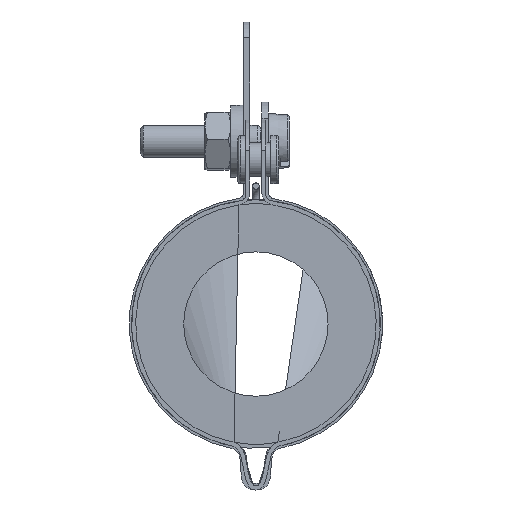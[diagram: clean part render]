
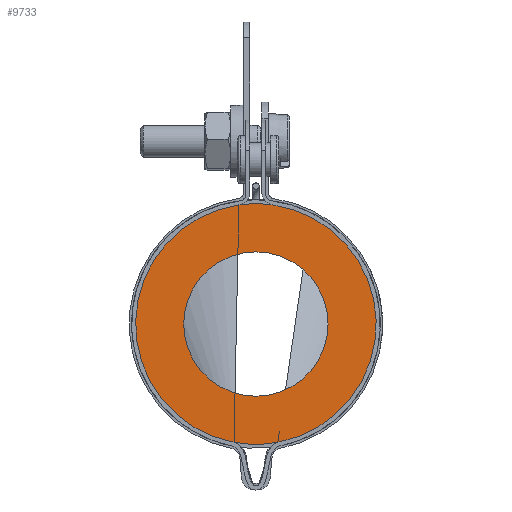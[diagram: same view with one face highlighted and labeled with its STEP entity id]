
A CAD part, front view. The second image highlights one B-rep face of the part: STEP entity #9733.
In plain terms, the highlighted planar face has unit normal (0, -1, 0).
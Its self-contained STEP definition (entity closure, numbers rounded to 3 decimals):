
#69=B_SPLINE_CURVE_WITH_KNOTS($,3,(#16328,#16329,#16330,#16331),
 .UNSPECIFIED.,.F.,.F.,(4,4),(0.,0.018),.UNSPECIFIED.);
#70=B_SPLINE_CURVE_WITH_KNOTS($,3,(#16335,#16336,#16337,#16338),
 .UNSPECIFIED.,.F.,.F.,(4,4),(0.126,0.143),
 .UNSPECIFIED.);
#772=LINE($,#16340,#1530);
#773=LINE($,#16347,#1531);
#1530=VECTOR($,#13243,0.099);
#1531=VECTOR($,#13250,0.099);
#1869=FACE_BOUND($,#2901,.T.);
#2324=FACE_OUTER_BOUND($,#2900,.T.);
#2900=EDGE_LOOP($,(#8037,#8038,#8039,#8040,#8041,#8042,#8043,#8044));
#2901=EDGE_LOOP($,(#8045));
#3466=CIRCLE($,#10690,9.);
#3467=CIRCLE($,#10693,15.);
#3468=CIRCLE($,#10694,15.);
#3469=CIRCLE($,#10695,15.);
#3470=CIRCLE($,#10696,15.);
#4323=VERTEX_POINT($,#16322);
#4324=VERTEX_POINT($,#16326);
#4325=VERTEX_POINT($,#16327);
#4326=VERTEX_POINT($,#16332);
#4327=VERTEX_POINT($,#16334);
#4328=VERTEX_POINT($,#16339);
#4329=VERTEX_POINT($,#16341);
#4330=VERTEX_POINT($,#16343);
#4331=VERTEX_POINT($,#16345);
#5591=EDGE_CURVE($,#4323,#4323,#3466,.T.);
#5592=EDGE_CURVE($,#4324,#4325,#69,.T.);
#5593=EDGE_CURVE($,#4325,#4326,#3467,.T.);
#5594=EDGE_CURVE($,#4326,#4327,#70,.T.);
#5595=EDGE_CURVE($,#4327,#4328,#772,.T.);
#5596=EDGE_CURVE($,#4328,#4329,#3468,.T.);
#5597=EDGE_CURVE($,#4329,#4330,#3469,.T.);
#5598=EDGE_CURVE($,#4330,#4331,#3470,.T.);
#5599=EDGE_CURVE($,#4331,#4324,#773,.T.);
#8037=ORIENTED_EDGE($,*,*,#5592,.T.);
#8038=ORIENTED_EDGE($,*,*,#5593,.T.);
#8039=ORIENTED_EDGE($,*,*,#5594,.T.);
#8040=ORIENTED_EDGE($,*,*,#5595,.T.);
#8041=ORIENTED_EDGE($,*,*,#5596,.T.);
#8042=ORIENTED_EDGE($,*,*,#5597,.T.);
#8043=ORIENTED_EDGE($,*,*,#5598,.T.);
#8044=ORIENTED_EDGE($,*,*,#5599,.T.);
#8045=ORIENTED_EDGE($,*,*,#5591,.T.);
#8761=PLANE($,#10692);
#9733=ADVANCED_FACE($,(#2324,#1869),#8761,.T.);
#10690=AXIS2_PLACEMENT_3D($,#16323,#13235,#13236);
#10692=AXIS2_PLACEMENT_3D($,#16325,#13239,#13240);
#10693=AXIS2_PLACEMENT_3D($,#16333,#13241,#13242);
#10694=AXIS2_PLACEMENT_3D($,#16342,#13244,#13245);
#10695=AXIS2_PLACEMENT_3D($,#16344,#13246,#13247);
#10696=AXIS2_PLACEMENT_3D($,#16346,#13248,#13249);
#13235=DIRECTION('center_axis',(0.,1.,0.));
#13236=DIRECTION('ref_axis',(1.,0.,0.));
#13239=DIRECTION('center_axis',(0.,-1.,0.));
#13240=DIRECTION('ref_axis',(0.,0.,-1.));
#13241=DIRECTION('center_axis',(0.,-1.,0.));
#13242=DIRECTION('ref_axis',(1.,0.,0.));
#13243=DIRECTION($,(0.995,0.,0.097));
#13244=DIRECTION('center_axis',(0.,-1.,0.));
#13245=DIRECTION('ref_axis',(1.,0.,0.));
#13246=DIRECTION('center_axis',(0.,-1.,0.));
#13247=DIRECTION('ref_axis',(1.,0.,0.));
#13248=DIRECTION('center_axis',(0.,-1.,0.));
#13249=DIRECTION('ref_axis',(1.,0.,0.));
#13250=DIRECTION($,(0.995,0.,-0.097));
#16322=CARTESIAN_POINT('',(-9.,0.,0.));
#16323=CARTESIAN_POINT('Origin',(0.,0.,0.));
#16325=CARTESIAN_POINT('Origin',(0.,0.,0.));
#16326=CARTESIAN_POINT('',(-2.901,0.,-14.707));
#16327=CARTESIAN_POINT('',(-2.731,0.,-14.749));
#16328=CARTESIAN_POINT('Ctrl Pts',(-2.901,0.,-14.707));
#16329=CARTESIAN_POINT('Ctrl Pts',(-2.843,0.,-14.718));
#16330=CARTESIAN_POINT('Ctrl Pts',(-2.786,0.,-14.732));
#16331=CARTESIAN_POINT('Ctrl Pts',(-2.731,0.,-14.749));
#16332=CARTESIAN_POINT('',(2.731,0.,-14.749));
#16333=CARTESIAN_POINT('Origin',(0.,0.,0.));
#16334=CARTESIAN_POINT('',(2.901,0.,-14.707));
#16335=CARTESIAN_POINT('Ctrl Pts',(2.731,0.,
-14.75));
#16336=CARTESIAN_POINT('Ctrl Pts',(2.786,0.,
-14.732));
#16337=CARTESIAN_POINT('Ctrl Pts',(2.843,0.,
-14.718));
#16338=CARTESIAN_POINT('Ctrl Pts',(2.901,0.,
-14.707));
#16339=CARTESIAN_POINT('',(3.,0.,-14.697));
#16340=CARTESIAN_POINT($,(2.176,0.,-14.777));
#16341=CARTESIAN_POINT('',(2.123,0.,14.849));
#16342=CARTESIAN_POINT('Origin',(0.,0.,0.));
#16343=CARTESIAN_POINT('',(-2.123,0.,14.849));
#16344=CARTESIAN_POINT('Origin',(0.,0.,0.));
#16345=CARTESIAN_POINT('',(-3.,0.,-14.697));
#16346=CARTESIAN_POINT('Origin',(0.,0.,0.));
#16347=CARTESIAN_POINT($,(-2.176,0.,-14.777));
